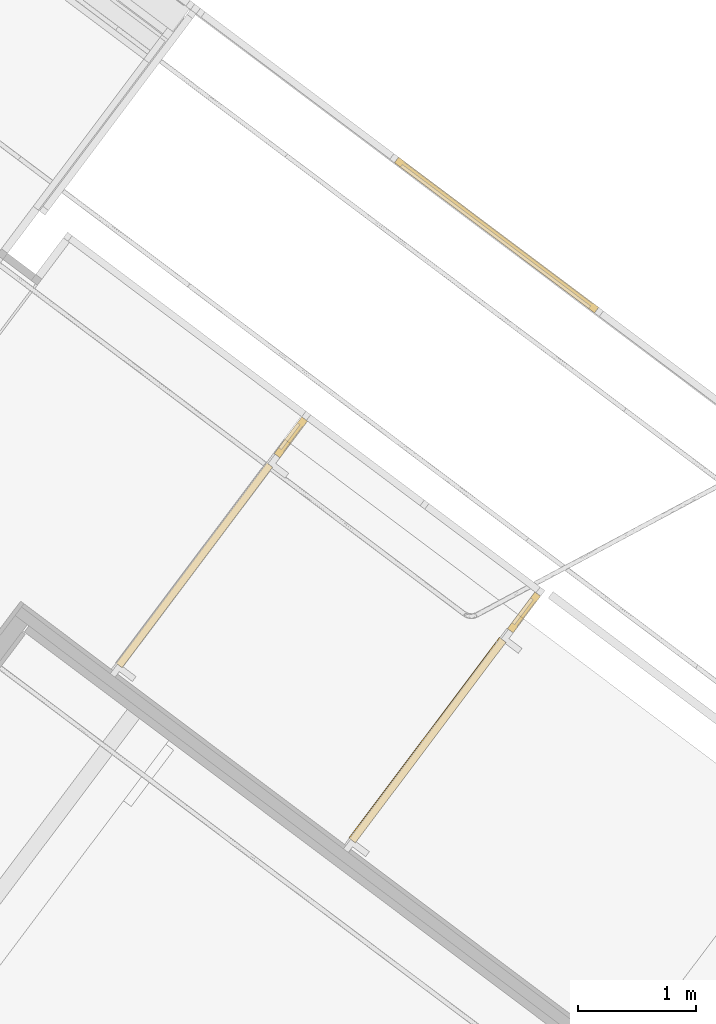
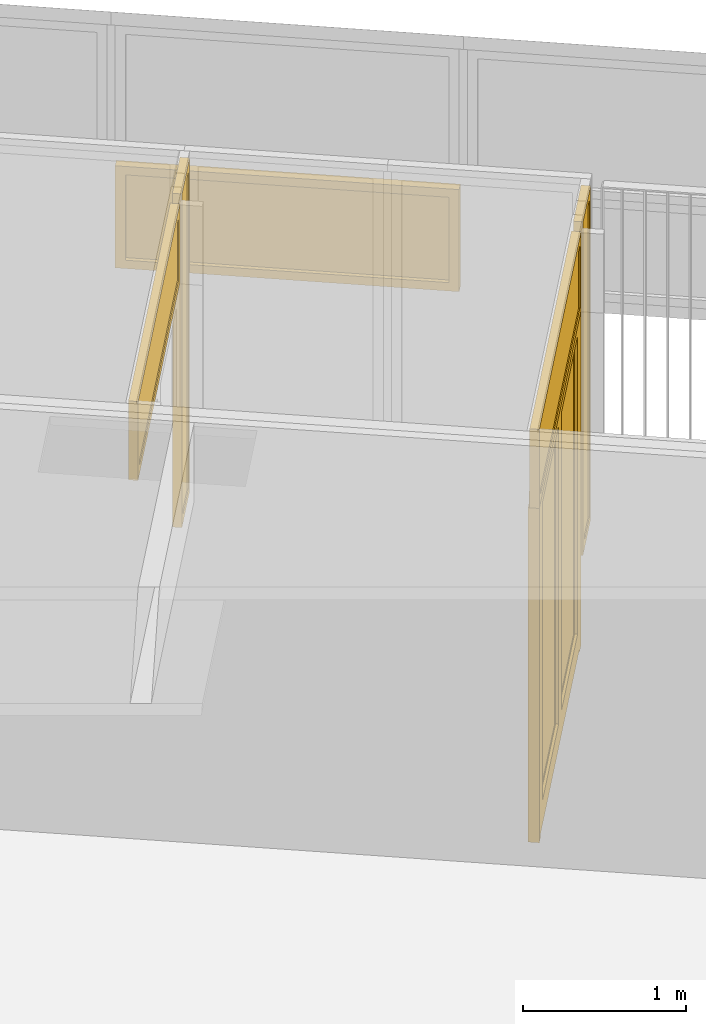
# One storey, part 211 of 243: 5 windows, 1 door, 5 elements without a shape of their own.
"""IFC2X3 building model written with IfcOpenShell, lengths in metres."""

from ifc_helpers import new_model, entity, si_unit, converted_unit, derived_unit, direction, frame, origin, place, context, subcontext, project, spatial, faceted_brep, source, transform, mapped, material, material_list, type_object, type_shapes, element, aggregate, save


model = new_model("IFC2X3")

# Units and contexts
model_context = context("Model", 3, precision=1e-05, world=origin(), true_north=direction((6.123031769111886e-17, 1.0)))
body_context = subcontext(model_context, "Body", "Model", "MODEL_VIEW")
ifc_project = project(units=[si_unit("LENGTHUNIT", "METRE"), si_unit("AREAUNIT", "SQUARE_METRE"), si_unit("VOLUMEUNIT", "CUBIC_METRE"), converted_unit("PLANEANGLEUNIT", "DEGREE", entity("IfcRatioMeasure", 0.017453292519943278), si_unit("PLANEANGLEUNIT", "RADIAN"), dimensions=[0, 0, 0, 0, 0, 0, 0]), si_unit("MASSUNIT", "GRAM", prefix="KILO"), derived_unit("MASSDENSITYUNIT", [(si_unit("MASSUNIT", "GRAM", prefix="KILO"), 1), (si_unit("LENGTHUNIT", "METRE"), -3)]), derived_unit("IONCONCENTRATIONUNIT", [(si_unit("MASSUNIT", "GRAM", prefix="KILO"), 1), (si_unit("LENGTHUNIT", "METRE"), -3)]), derived_unit("MOMENTOFINERTIAUNIT", [(si_unit("LENGTHUNIT", "METRE"), 4)]), si_unit("TIMEUNIT", "SECOND"), si_unit("FREQUENCYUNIT", "HERTZ"), si_unit("THERMODYNAMICTEMPERATUREUNIT", "DEGREE_CELSIUS"), derived_unit("THERMALTRANSMITTANCEUNIT", [(si_unit("MASSUNIT", "GRAM", prefix="KILO"), 1), (si_unit("THERMODYNAMICTEMPERATUREUNIT", "KELVIN"), -1), (si_unit("TIMEUNIT", "SECOND"), -3)]), derived_unit("THERMALCONDUCTANCEUNIT", [(si_unit("MASSUNIT", "GRAM", prefix="KILO"), 1), (si_unit("THERMODYNAMICTEMPERATUREUNIT", "KELVIN"), -1), (si_unit("TIMEUNIT", "SECOND"), -3), (si_unit("LENGTHUNIT", "METRE"), 1)]), derived_unit("VOLUMETRICFLOWRATEUNIT", [(si_unit("LENGTHUNIT", "METRE"), 3), (si_unit("TIMEUNIT", "SECOND"), -1)]), derived_unit("MASSFLOWRATEUNIT", [(si_unit("MASSUNIT", "GRAM", prefix="KILO"), 1), (si_unit("TIMEUNIT", "SECOND"), -1)]), derived_unit("ROTATIONALFREQUENCYUNIT", [(si_unit("TIMEUNIT", "SECOND"), -1)]), si_unit("ELECTRICCURRENTUNIT", "AMPERE"), si_unit("ELECTRICVOLTAGEUNIT", "VOLT"), si_unit("POWERUNIT", "WATT"), si_unit("FORCEUNIT", "NEWTON", prefix="KILO"), si_unit("ILLUMINANCEUNIT", "LUX"), si_unit("LUMINOUSFLUXUNIT", "LUMEN"), si_unit("LUMINOUSINTENSITYUNIT", "CANDELA"), derived_unit("USERDEFINED", [(si_unit("MASSUNIT", "GRAM", prefix="KILO"), -1), (si_unit("LENGTHUNIT", "METRE"), -2), (si_unit("TIMEUNIT", "SECOND"), 3), (si_unit("LUMINOUSFLUXUNIT", "LUMEN"), 1)]), derived_unit("USERDEFINED", [(si_unit("MASSUNIT", "GRAM", prefix="KILO"), 1), (si_unit("TIMEUNIT", "SECOND"), -3), (si_unit("LENGTHUNIT", "METRE"), 3), (si_unit("ELECTRICCURRENTUNIT", "AMPERE"), -2)]), derived_unit("SOUNDPOWERUNIT", [(si_unit("MASSUNIT", "GRAM", prefix="KILO"), 1), (si_unit("TIMEUNIT", "SECOND"), -3), (si_unit("LENGTHUNIT", "METRE"), 2)]), derived_unit("SOUNDPRESSUREUNIT", [(si_unit("MASSUNIT", "GRAM", prefix="KILO"), 1), (si_unit("LENGTHUNIT", "METRE"), -1), (si_unit("TIMEUNIT", "SECOND"), -2)]), derived_unit("LINEARVELOCITYUNIT", [(si_unit("LENGTHUNIT", "METRE"), 1), (si_unit("TIMEUNIT", "SECOND"), -1)]), si_unit("PRESSUREUNIT", "PASCAL"), derived_unit("USERDEFINED", [(si_unit("MASSUNIT", "GRAM", prefix="KILO"), 1), (si_unit("LENGTHUNIT", "METRE"), -2), (si_unit("TIMEUNIT", "SECOND"), -2)]), derived_unit("LINEARFORCEUNIT", [(si_unit("MASSUNIT", "GRAM", prefix="KILO"), 1), (si_unit("TIMEUNIT", "SECOND"), -2)]), derived_unit("PLANARFORCEUNIT", [(si_unit("MASSUNIT", "GRAM", prefix="KILO"), 1), (si_unit("LENGTHUNIT", "METRE"), -1), (si_unit("TIMEUNIT", "SECOND"), -2)]), derived_unit("SPECIFICHEATCAPACITYUNIT", [(si_unit("THERMODYNAMICTEMPERATUREUNIT", "KELVIN"), -1), (si_unit("LENGTHUNIT", "METRE"), 2), (si_unit("TIMEUNIT", "SECOND"), -2)]), derived_unit("HEATINGVALUEUNIT", [(si_unit("LENGTHUNIT", "METRE"), 2), (si_unit("TIMEUNIT", "SECOND"), -2)]), derived_unit("VAPORPERMEABILITYUNIT", [(si_unit("LENGTHUNIT", "METRE"), -1), (si_unit("TIMEUNIT", "SECOND"), 1)]), derived_unit("DYNAMICVISCOSITYUNIT", [(si_unit("MASSUNIT", "GRAM", prefix="KILO"), 1), (si_unit("TIMEUNIT", "SECOND"), -1), (si_unit("LENGTHUNIT", "METRE"), -1)]), derived_unit("THERMALEXPANSIONCOEFFICIENTUNIT", [(si_unit("THERMODYNAMICTEMPERATUREUNIT", "KELVIN"), -1)]), derived_unit("MODULUSOFELASTICITYUNIT", [(si_unit("MASSUNIT", "GRAM", prefix="KILO"), 1), (si_unit("LENGTHUNIT", "METRE"), -1), (si_unit("TIMEUNIT", "SECOND"), -2)]), derived_unit("ISOTHERMALMOISTURECAPACITYUNIT", [(si_unit("LENGTHUNIT", "METRE"), 3), (si_unit("MASSUNIT", "GRAM", prefix="KILO"), -1)]), derived_unit("MOISTUREDIFFUSIVITYUNIT", [(si_unit("TIMEUNIT", "SECOND"), -1), (si_unit("LENGTHUNIT", "METRE"), 2)])], contexts=[model_context])

# Site, building, storey
site_placement = place(None, frame((0.0, 0.0, 235.0), z_axis=(0.0, 0.0, 1.0), x_axis=(-0.7996477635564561, 0.6004693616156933, 0.0)))
site = spatial("IfcSite", under=ifc_project, at=site_placement, Name="Default", CompositionType="ELEMENT")
building_placement = place(site_placement, origin())
building = spatial("IfcBuilding", under=site, at=building_placement, CompositionType="ELEMENT")
storey_placement = place(building_placement, origin())
storey = spatial("IfcBuildingStorey", under=building, at=storey_placement, Name="P0- Escola", CompositionType="ELEMENT", Elevation=0.0)

# Curtain wall, window
curtain_wall_type_1 = type_object("IfcCurtainWallType", PredefinedType="NOTDEFINED")
curtain_wall_1_placement = place(storey_placement, origin())
curtain_wall_1 = element("IfcCurtainWall", 1, at=curtain_wall_1_placement, inside=storey, type_object=curtain_wall_type_1)
ifc_material_1 = material(Name="_Vidre")
ifc_material_2 = material(Name="_Alumini- T1- Perfil")
ifc_material_list_1 = material_list([ifc_material_1, ifc_material_2])
window_style_1 = type_object("IfcWindowStyle", Name="MC- Alu- Conjunt vidre fix- 62x60 cm:MC- Alu- Conjunt vidre fix- 62x60 cm", ConstructionType="NOTDEFINED", OperationType="NOTDEFINED", ParameterTakesPrecedence=False, Sizeable=False, material=ifc_material_list_1)
shared_shape_1 = source(origin(), body_context, "Body", "Brep", [
    faceted_brep([(0.14619328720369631, -0.007600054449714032, 0.048806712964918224), (0.14619328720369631, -0.03160022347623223, 0.048806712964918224), (-0.14619328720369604, -0.03160022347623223, 0.048806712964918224), (-0.14619328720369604, -0.007600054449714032, 0.048806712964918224), (0.14619328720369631, -0.007600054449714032, 2.4510000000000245), (-0.14619328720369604, -0.007600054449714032, 2.4510000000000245), (-0.14619328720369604, -0.03160022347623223, 2.4510000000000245), (0.14619328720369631, -0.03160022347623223, 2.4510000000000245)], [[[0, 1, 2, 3]], [[4, 0, 3, 5]], [[5, 3, 2, 6]], [[6, 2, 1, 7]], [[7, 1, 0, 4]], [[4, 5, 6, 7]]]),
    faceted_brep([(0.19500000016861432, -0.05999999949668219, 2.500000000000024), (0.1950000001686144, -0.05999999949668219, 0.0), (0.1950000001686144, 0.0, 0.0), (0.1950000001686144, 0.0, 2.500000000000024), (-0.1950000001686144, 0.0, 2.500000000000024), (-0.1950000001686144, 0.0, 0.0), (0.13219318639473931, 0.0, 2.437193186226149), (-0.13219318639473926, 0.0, 2.437193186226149), (-0.13219318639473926, 0.0, 0.06280681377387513), (0.1321931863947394, 0.0, 0.06280681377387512), (-0.1950000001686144, -0.05999999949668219, 0.0), (-0.19500000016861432, -0.05999999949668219, 2.500000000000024), (-0.13219603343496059, -0.05999999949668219, 2.4371960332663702), (0.13219603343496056, -0.05999999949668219, 2.4371960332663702), (0.13219603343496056, -0.05999999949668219, 0.06280396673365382), (-0.13219603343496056, -0.05999999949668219, 0.06280396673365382), (0.13219603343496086, -0.03160022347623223, 2.4371960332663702), (0.13219603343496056, -0.03160022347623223, 0.06280396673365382), (-0.13219603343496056, -0.03160022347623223, 0.06280396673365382), (-0.13219603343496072, -0.03160022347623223, 2.4371960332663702), (-0.14619328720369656, -0.03160022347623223, 2.4511932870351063), (0.1461932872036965, -0.03160022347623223, 2.4511932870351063), (0.1461932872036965, -0.03160022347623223, 0.04880671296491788), (-0.1461932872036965, -0.03160022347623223, 0.04880671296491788), (0.14619328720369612, -0.007600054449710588, 2.4511932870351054), (0.1461932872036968, -0.007600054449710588, 0.04880671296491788), (-0.1461932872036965, -0.007600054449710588, 0.04880671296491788), (-0.14619328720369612, -0.007600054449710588, 2.4511932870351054), (-0.13219318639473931, -0.007600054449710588, 2.437193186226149), (0.13219318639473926, -0.007600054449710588, 2.437193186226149), (0.13219318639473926, -0.007600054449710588, 0.06280681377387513), (-0.13219318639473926, -0.007600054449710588, 0.06280681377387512)], [[[0, 1, 2, 3]], [[4, 3, 2, 5], [6, 7, 8, 9]], [[1, 10, 5, 2]], [[0, 11, 10, 1], [12, 13, 14, 15]], [[16, 17, 14, 13]], [[17, 18, 15, 14]], [[16, 19, 18, 17], [20, 21, 22, 23]], [[24, 25, 22, 21]], [[25, 26, 23, 22]], [[24, 27, 26, 25], [28, 29, 30, 31]], [[6, 9, 30, 29]], [[9, 8, 31, 30]], [[10, 11, 4, 5]], [[18, 19, 12, 15]], [[26, 27, 20, 23]], [[8, 7, 28, 31]], [[11, 0, 3, 4]], [[19, 16, 13, 12]], [[27, 24, 21, 20]], [[7, 6, 29, 28]]], outer=[[True], [True, False], [True], [True, False], [True], [True], [False, True], [True], [True], [True, False], [True], [True], [True], [True], [True], [True], [True], [True], [True], [True]]),
])
type_shapes(window_style_1, [shared_shape_1])
window_1_placement = place(curtain_wall_1_placement, frame((33.750147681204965, -39.885191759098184, 0.6), z_axis=(0.0, 0.0, 1.0), x_axis=(0.0, 1.0, 0.0)))
window_1 = element("IfcWindow", 2, at=window_1_placement, type_object=window_style_1, material=ifc_material_list_1, Name="MC- Alu- Conjunt vidre fix- 62x60 cm:MC- Alu- Conjunt vidre fix- 62x60 cm", ObjectType="MC- Alu- Conjunt vidre fix- 62x60 cm:MC- Alu- Conjunt vidre fix- 62x60 cm", OverallHeight=2.500000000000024, OverallWidth=0.3900000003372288, context=body_context, shape_type="MappedRepresentation", body=[
    mapped(shared_shape_1, transform((0.0, 0.0, 0.0), scale=1.0)),
])
aggregate(curtain_wall_1, [window_1])

curtain_wall_2_placement = place(storey_placement, origin())
curtain_wall_2 = element("IfcCurtainWall", 3, at=curtain_wall_2_placement, inside=storey, type_object=curtain_wall_type_1)
window_2_placement = place(curtain_wall_2_placement, frame((31.271147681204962, -39.885191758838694, 0.6), z_axis=(0.0, 0.0, 1.0), x_axis=(0.0, 1.0, 0.0)))
window_2 = element("IfcWindow", 4, at=window_2_placement, type_object=window_style_1, material=ifc_material_list_1, Name="MC- Alu- Conjunt vidre fix- 62x60 cm:MC- Alu- Conjunt vidre fix- 62x60 cm", ObjectType="MC- Alu- Conjunt vidre fix- 62x60 cm:MC- Alu- Conjunt vidre fix- 62x60 cm", OverallHeight=2.500000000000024, OverallWidth=0.3900000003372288, context=body_context, shape_type="MappedRepresentation", body=[
    mapped(shared_shape_1, transform((0.0, 0.0, 0.0), scale=1.0)),
])
aggregate(curtain_wall_2, [window_2])

# Curtain wall, door, window
curtain_wall_type_2 = type_object("IfcCurtainWallType", PredefinedType="NOTDEFINED")
curtain_wall_3_placement = place(storey_placement, origin())
curtain_wall_3 = element("IfcCurtainWall", 5, at=curtain_wall_3_placement, inside=storey, type_object=curtain_wall_type_2)
ifc_material_list_2 = material_list([ifc_material_2, ifc_material_1])
door_style = type_object("IfcDoorStyle", Name="MC- Alu- Conjunt doble porta- 70x60 cm- +15cm- obertura int:MC- Alu- Conjunt doble porta- 70x60 cm- +15cm- obertura int", ConstructionType="NOTDEFINED", OperationType="NOTDEFINED", ParameterTakesPrecedence=False, Sizeable=False, material=ifc_material_list_2)
shared_shape_2 = source(origin(), body_context, "Body", "Brep", [
    faceted_brep([(-0.9924499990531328, 0.0, 0.02400000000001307), (0.0, 0.0, 0.02400000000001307), (0.0, -0.0656997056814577, 0.02400000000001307), (-0.9924499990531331, -0.06569970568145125, 0.02400000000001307), (-0.992449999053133, -0.06569970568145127, 2.560300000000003), (-0.9924499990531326, 0.0, 2.560300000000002), (0.0, -0.06569970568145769, 2.560300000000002), (0.0, -0.06569970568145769, 0.0), (-1.0164499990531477, -0.06569970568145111, 0.0), (-1.0164499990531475, -0.0656997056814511, 2.5843000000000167), (0.0, -0.06569970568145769, 2.5843000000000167), (0.0, -0.06999970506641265, 2.5843000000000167), (0.0, -0.06999970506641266, 0.0), (0.0, 0.0, 2.560300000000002), (-0.8908499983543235, 0.0, 2.458699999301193), (-0.8908499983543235, 0.0, 0.2036000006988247), (-0.07659999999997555, 0.0, 0.20360000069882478), (-0.07659999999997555, 0.0, 2.458699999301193), (-0.0765999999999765, -0.06449970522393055, 2.458699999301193), (-0.0765999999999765, -0.06449970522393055, 0.20360000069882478), (-0.07659999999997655, -0.06999970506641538, 0.20360000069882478), (-0.07659999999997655, -0.06999970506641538, 2.458699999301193), (-0.8908499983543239, -0.06999970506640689, 0.20360000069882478), (-0.8908499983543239, -0.06999970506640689, 2.458699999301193), (-1.016449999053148, -0.06999970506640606, 2.584300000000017), (-1.016449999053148, -0.06999970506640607, 0.0), (-0.8908499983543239, -0.06449970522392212, 0.2036000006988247), (-0.8908499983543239, -0.06449970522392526, 2.458699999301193), (-0.05159999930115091, -0.0644997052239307, 2.483700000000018), (-0.05159999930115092, -0.0644997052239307, 0.17859999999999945), (-0.9158499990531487, -0.06449970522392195, 0.17859999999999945), (-0.9158499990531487, -0.0644997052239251, 2.483700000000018), (-0.9158499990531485, -0.018999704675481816, 0.17859999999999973), (-0.9158499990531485, -0.018999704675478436, 2.483700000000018), (-0.051599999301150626, -0.018999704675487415, 0.17859999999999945), (-0.05159999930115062, -0.018999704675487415, 2.483700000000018), (-0.07659999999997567, -0.018999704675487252, 2.458699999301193), (-0.07659999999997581, -0.018999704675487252, 0.20360000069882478), (-0.8908499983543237, -0.0189997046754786, 0.20360000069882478), (-0.8908499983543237, -0.0189997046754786, 2.458699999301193)], [[[0, 1, 2, 3]], [[4, 5, 0, 3]], [[6, 4, 3, 2, 7, 8, 9, 10]], [[10, 11, 12, 7, 2, 1, 13, 6]], [[13, 1, 0, 5], [14, 15, 16, 17]], [[18, 19, 20, 21]], [[21, 20, 22, 23], [24, 25, 12, 11]], [[26, 22, 20, 19]], [[27, 26, 19, 18], [28, 29, 30, 31]], [[23, 22, 26, 27]], [[31, 30, 32, 33]], [[34, 32, 30, 29]], [[35, 34, 29, 28]], [[33, 32, 34, 35], [36, 37, 38, 39]], [[39, 38, 15, 14]], [[15, 38, 37, 16]], [[17, 16, 37, 36]], [[8, 7, 12, 25]], [[9, 8, 25, 24]], [[4, 6, 13, 5]], [[10, 9, 24, 11]], [[27, 18, 21, 23]], [[33, 35, 28, 31]], [[14, 17, 36, 39]]], outer=[[True], [True], [True], [True], [True, False], [True], [False, True], [True], [False, True], [True], [True], [True], [True], [True, False], [True], [True], [True], [True], [True], [True], [True], [True], [True], [True]]),
    faceted_brep([(0.9924499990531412, -0.06569970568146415, 0.024000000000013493), (0.0, -0.0656997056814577, 0.024000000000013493), (0.0, 0.0, 0.024000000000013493), (0.9924499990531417, 0.0, 0.024000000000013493), (1.0164499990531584, -0.0656997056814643, 0.0), (0.0, -0.0656997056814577, 0.0), (0.9924499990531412, -0.06569970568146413, 2.5603000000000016), (0.0, -0.0656997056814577, 2.5603000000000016), (0.0, -0.0656997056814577, 2.5843000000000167), (1.0164499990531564, -0.0656997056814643, 2.5843000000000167), (0.9924499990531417, 0.0, 2.5603000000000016), (0.0, 0.0, 2.5603000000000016), (0.07659999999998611, 0.0, 2.458699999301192), (0.07659999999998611, 0.0, 0.20360000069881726), (0.8908499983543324, 0.0, 0.2036000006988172), (0.8908499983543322, 0.0, 2.458699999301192), (0.0, -0.06999970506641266, 0.0), (0.0, -0.06999970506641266, 2.5843000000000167), (0.8908499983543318, -0.06999970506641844, 2.458699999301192), (0.890849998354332, -0.06999970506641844, 0.20360000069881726), (0.07659999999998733, -0.06999970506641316, 0.2036000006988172), (0.07659999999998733, -0.06999970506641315, 2.458699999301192), (1.0164499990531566, -0.06999970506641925, 0.0), (1.0164499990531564, -0.06999970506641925, 2.5843000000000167), (0.8908499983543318, -0.06449970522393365, 2.458699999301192), (0.890849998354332, -0.06449970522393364, 0.20360000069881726), (0.0765999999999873, -0.0644997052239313, 0.2036000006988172), (0.9158499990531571, -0.06449970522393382, 2.4837000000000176), (0.9158499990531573, -0.0644997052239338, 0.17859999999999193), (0.05159999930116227, -0.06449970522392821, 0.17859999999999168), (0.05159999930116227, -0.06449970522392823, 2.483700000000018), (0.0765999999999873, -0.06449970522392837, 2.458699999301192), (0.9158499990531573, -0.01899970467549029, 2.4837000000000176), (0.9158499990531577, -0.01899970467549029, 0.17859999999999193), (0.890849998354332, -0.018999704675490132, 2.458699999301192), (0.8908499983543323, -0.018999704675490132, 0.20360000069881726), (0.07659999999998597, -0.018999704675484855, 0.20360000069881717), (0.07659999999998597, -0.018999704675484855, 2.458699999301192), (0.05159999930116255, -0.01899970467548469, 2.483700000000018), (0.05159999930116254, -0.01899970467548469, 0.17859999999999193)], [[[0, 1, 2, 3]], [[4, 5, 1, 0, 6, 7, 8, 9]], [[3, 10, 6, 0]], [[10, 3, 2, 11], [12, 13, 14, 15]], [[8, 7, 11, 2, 1, 5, 16, 17]], [[18, 19, 20, 21], [16, 22, 23, 17]], [[23, 22, 4, 9]], [[24, 25, 19, 18]], [[19, 25, 26, 20]], [[27, 28, 29, 30], [31, 26, 25, 24]], [[32, 33, 28, 27]], [[34, 35, 36, 37], [38, 39, 33, 32]], [[33, 39, 29, 28]], [[15, 14, 35, 34]], [[35, 14, 13, 36]], [[21, 20, 26, 31]], [[30, 29, 39, 38]], [[37, 36, 13, 12]], [[9, 8, 17, 23]], [[18, 21, 31, 24]], [[27, 30, 38, 32]], [[34, 37, 12, 15]], [[10, 11, 7, 6]], [[5, 4, 22, 16]]], outer=[[True], [True], [True], [True, False], [True], [False, True], [True], [True], [True], [True, False], [True], [False, True], [True], [True], [True], [True], [True], [True], [True], [True], [True], [True], [True], [True]]),
    faceted_brep([(0.0515999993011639, -0.06089980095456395, 0.17859999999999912), (0.051599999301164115, -0.02889980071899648, 0.17859999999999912), (0.9158499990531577, -0.02889980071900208, 0.17859999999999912), (0.9158499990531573, -0.06089980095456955, 0.17859999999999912), (0.0515999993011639, -0.06089980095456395, 2.5087000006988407), (0.9158499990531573, -0.06089980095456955, 2.5087000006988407), (0.9158499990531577, -0.02889980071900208, 2.5087000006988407), (0.051599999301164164, -0.02889980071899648, 2.5087000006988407)], [[[0, 1, 2, 3]], [[4, 0, 3, 5]], [[5, 3, 2, 6]], [[6, 2, 1, 7]], [[7, 1, 0, 4]], [[4, 5, 6, 7]]]),
    faceted_brep([(-0.05159999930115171, -0.06089980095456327, 0.17859999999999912), (-0.9158499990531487, -0.06089980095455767, 0.17859999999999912), (-0.9158499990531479, -0.028899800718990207, 0.17859999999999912), (-0.05159999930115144, -0.028899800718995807, 0.17859999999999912), (-0.0515999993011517, -0.06089980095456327, 2.5087000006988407), (-0.05159999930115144, -0.028899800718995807, 2.5087000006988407), (-0.9158499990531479, -0.028899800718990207, 2.5087000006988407), (-0.9158499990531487, -0.06089980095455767, 2.5087000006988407)], [[[0, 1, 2, 3]], [[4, 0, 3, 5]], [[5, 3, 2, 6]], [[6, 2, 1, 7]], [[7, 1, 0, 4]], [[4, 5, 6, 7]]]),
    faceted_brep([(1.0657499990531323, -0.06999999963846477, 0.0), (1.0244499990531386, -0.0699999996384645, 0.0), (1.0244499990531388, -0.059699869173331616, 0.0), (1.0139499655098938, -0.059699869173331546, 0.0), (1.013949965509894, -0.008800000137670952, 0.0), (0.9984499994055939, -0.00880000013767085, 0.0), (0.998449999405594, 0.0, 0.0), (1.0657499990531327, 0.0, 0.0), (1.0657499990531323, -0.06999999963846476, 2.5050000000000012), (-1.065749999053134, -0.06999999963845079, 2.5050000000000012), (-1.0657499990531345, -0.06999999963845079, 0.0), (-1.0244499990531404, -0.0699999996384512, 0.0), (-1.0244499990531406, -0.06999999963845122, 2.4637000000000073), (1.0244499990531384, -0.06999999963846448, 2.4637000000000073), (1.024449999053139, -0.05969986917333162, 2.4637000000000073), (-1.0244499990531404, -0.05969986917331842, 2.4637000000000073), (-1.0244499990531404, -0.05969986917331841, 0.0), (-1.0139499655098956, -0.05969986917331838, 0.0), (-1.0139499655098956, -0.05969986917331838, 2.4531999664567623), (1.0139499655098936, -0.05969986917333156, 2.4531999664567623), (1.0139499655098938, -0.008800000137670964, 2.4531999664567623), (-1.0139499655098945, -0.008800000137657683, 2.4531999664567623), (-1.013949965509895, -0.008800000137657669, 0.0), (-0.9984499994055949, -0.008800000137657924, 0.0), (-0.9984499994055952, -0.008800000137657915, 2.4377000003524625), (0.9984499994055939, -0.008800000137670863, 2.4377000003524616), (0.9984499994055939, 0.0, 2.4377000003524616), (-0.9984499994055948, 0.0, 2.437700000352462), (-0.9984499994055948, 0.0, 0.0), (-1.0657499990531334, 0.0, 0.0), (-1.0657499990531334, 0.0, 2.505000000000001), (1.0657499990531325, 0.0, 2.5050000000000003)], [[[0, 1, 2, 3, 4, 5, 6, 7]], [[1, 0, 8, 9, 10, 11, 12, 13]], [[2, 1, 13, 14]], [[3, 2, 14, 15, 16, 17, 18, 19]], [[4, 3, 19, 20]], [[5, 4, 20, 21, 22, 23, 24, 25]], [[6, 5, 25, 26]], [[7, 6, 26, 27, 28, 29, 30, 31]], [[0, 7, 31, 8]], [[10, 29, 28, 23, 22, 17, 16, 11]], [[9, 30, 29, 10]], [[27, 24, 23, 28]], [[21, 18, 17, 22]], [[15, 12, 11, 16]], [[8, 31, 30, 9]], [[26, 25, 24, 27]], [[20, 19, 18, 21]], [[14, 13, 12, 15]]]),
])
type_shapes(door_style, [shared_shape_2])
door_placement = place(curtain_wall_3_placement, frame((31.271147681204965, -38.52319175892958, 0.0), z_axis=(0.0, 0.0, 1.0), x_axis=(0.0, 1.0, 0.0)))
door = element("IfcDoor", 6, at=door_placement, type_object=door_style, material=ifc_material_list_2, Name="MC- Alu- Conjunt doble porta- 70x60 cm- +15cm- obertura int:MC- Alu- Conjunt doble porta- 70x60 cm- +15cm- obertura int", ObjectType="MC- Alu- Conjunt doble porta- 70x60 cm- +15cm- obertura int:MC- Alu- Conjunt doble porta- 70x60 cm- +15cm- obertura int", OverallHeight=2.58430000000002, OverallWidth=2.1314999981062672, context=body_context, shape_type="MappedRepresentation", body=[
    mapped(shared_shape_2, transform((0.0, 0.0, 0.0), scale=1.0)),
])
window_style_2 = type_object("IfcWindowStyle", Name="MC- Alu- Conjunt vidre fix- 62x60 cm:MC- Alu- Conjunt vidre fix- 62x60 cm", ConstructionType="NOTDEFINED", OperationType="NOTDEFINED", ParameterTakesPrecedence=False, Sizeable=False, material=ifc_material_list_1)
shared_shape_3 = source(origin(), body_context, "Body", "Brep", [
    faceted_brep([(-1.0169432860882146, -0.007600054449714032, 0.048806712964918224), (1.0169432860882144, -0.007600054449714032, 0.048806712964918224), (1.0169432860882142, -0.03160022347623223, 0.048806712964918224), (-1.0169432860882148, -0.03160022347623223, 0.048806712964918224), (-1.0169432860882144, -0.007600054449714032, 0.543000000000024), (1.0169432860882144, -0.007600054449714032, 0.543000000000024), (1.0169432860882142, -0.03160022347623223, 0.543000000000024), (-1.0169432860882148, -0.03160022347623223, 0.543000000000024)], [[[0, 1, 2, 3]], [[4, 5, 1, 0]], [[5, 6, 2, 1]], [[6, 7, 3, 2]], [[7, 4, 0, 3]], [[4, 7, 6, 5]]]),
    faceted_brep([(-1.0657499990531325, -0.05999999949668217, 0.5920000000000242), (-1.0657499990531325, 0.0, 0.5920000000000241), (-1.0657499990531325, 0.0, 0.0), (-1.0657499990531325, -0.05999999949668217, 0.0), (-1.0029431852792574, 0.0, 0.529193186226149), (-1.0029431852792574, 0.0, 0.06280681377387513), (1.0029431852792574, 0.0, 0.06280681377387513), (1.0029431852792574, 0.0, 0.529193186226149), (1.0657499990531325, 0.0, 0.5920000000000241), (1.0657499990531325, 0.0, 0.0), (1.0657499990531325, -0.05999999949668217, 0.0), (1.0657499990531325, -0.05999999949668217, 0.5920000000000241), (1.0029460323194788, -0.05999999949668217, 0.5291960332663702), (1.0029460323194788, -0.05999999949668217, 0.06280396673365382), (-1.0029460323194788, -0.05999999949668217, 0.06280396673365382), (-1.0029460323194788, -0.05999999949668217, 0.5291960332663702), (-1.0029460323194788, -0.03160022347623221, 0.5291960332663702), (-1.0029460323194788, -0.03160022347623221, 0.06280396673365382), (1.0029460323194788, -0.03160022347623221, 0.06280396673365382), (1.0029460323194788, -0.03160022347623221, 0.5291960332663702), (1.0169432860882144, -0.03160022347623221, 0.5431932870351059), (1.0169432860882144, -0.03160022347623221, 0.048806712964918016), (-1.0169432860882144, -0.03160022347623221, 0.04880671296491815), (-1.0169432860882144, -0.03160022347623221, 0.543193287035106), (-1.0169432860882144, -0.007600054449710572, 0.543193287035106), (-1.0169432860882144, -0.007600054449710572, 0.04880671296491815), (1.0169432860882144, -0.007600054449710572, 0.048806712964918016), (1.0169432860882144, -0.007600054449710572, 0.5431932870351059), (1.0029431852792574, -0.007600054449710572, 0.529193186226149), (1.0029431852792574, -0.007600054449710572, 0.062806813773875), (-1.0029431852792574, -0.007600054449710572, 0.06280681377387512), (-1.0029431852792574, -0.007600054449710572, 0.5291931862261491)], [[[0, 1, 2, 3]], [[4, 5, 6, 7], [8, 9, 2, 1]], [[3, 2, 9, 10]], [[0, 3, 10, 11], [12, 13, 14, 15]], [[16, 15, 14, 17]], [[17, 14, 13, 18]], [[16, 17, 18, 19], [20, 21, 22, 23]], [[24, 23, 22, 25]], [[25, 22, 21, 26]], [[24, 25, 26, 27], [28, 29, 30, 31]], [[4, 31, 30, 5]], [[5, 30, 29, 6]], [[10, 9, 8, 11]], [[18, 13, 12, 19]], [[26, 21, 20, 27]], [[6, 29, 28, 7]], [[11, 8, 1, 0]], [[19, 12, 15, 16]], [[27, 20, 23, 24]], [[7, 28, 31, 4]]], outer=[[True], [False, True], [True], [True, False], [True], [True], [False, True], [True], [True], [True, False], [True], [True], [True], [True], [True], [True], [True], [True], [True], [True]]),
])
type_shapes(window_style_2, [shared_shape_3])
window_3_placement = place(curtain_wall_3_placement, frame((31.271147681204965, -38.52319175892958, 2.5050000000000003), z_axis=(0.0, 0.0, 1.0), x_axis=(0.0, 1.0, 0.0)))
window_3 = element("IfcWindow", 7, at=window_3_placement, type_object=window_style_2, material=ifc_material_list_1, Name="MC- Alu- Conjunt vidre fix- 62x60 cm:MC- Alu- Conjunt vidre fix- 62x60 cm", ObjectType="MC- Alu- Conjunt vidre fix- 62x60 cm:MC- Alu- Conjunt vidre fix- 62x60 cm", OverallHeight=0.5920000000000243, OverallWidth=2.131499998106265, context=body_context, shape_type="MappedRepresentation", body=[
    mapped(shared_shape_3, transform((0.0, 0.0, 0.0), scale=1.0)),
])
aggregate(curtain_wall_3, [door, window_3])

# Curtain wall, window
curtain_wall_4_placement = place(storey_placement, origin())
curtain_wall_4 = element("IfcCurtainWall", 8, at=curtain_wall_4_placement, inside=storey, type_object=curtain_wall_type_2)
window_4_placement = place(curtain_wall_4_placement, frame((33.75114768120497, -38.523191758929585, 2.5050000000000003), z_axis=(0.0, 0.0, 1.0), x_axis=(0.0, 1.0, 0.0)))
window_4 = element("IfcWindow", 9, at=window_4_placement, type_object=window_style_2, material=ifc_material_list_1, Name="MC- Alu- Conjunt vidre fix- 62x60 cm:MC- Alu- Conjunt vidre fix- 62x60 cm", ObjectType="MC- Alu- Conjunt vidre fix- 62x60 cm:MC- Alu- Conjunt vidre fix- 62x60 cm", OverallHeight=0.5920000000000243, OverallWidth=2.131499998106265, context=body_context, shape_type="MappedRepresentation", body=[
    mapped(shared_shape_3, transform((0.0, 0.0, 0.0), scale=1.0)),
])
aggregate(curtain_wall_4, [window_4])

curtain_wall_type_3 = type_object("IfcCurtainWallType", Name="Muro cortina:MC- EXT- MC9", PredefinedType="NOTDEFINED")
curtain_wall_5_placement = place(storey_placement, origin())
curtain_wall_5 = element("IfcCurtainWall", 10, at=curtain_wall_5_placement, inside=storey, type_object=curtain_wall_type_3, Name="Muro cortina:MC- EXT- MC9", ObjectType="Muro cortina:MC- EXT- MC9")
window_style_3 = type_object("IfcWindowStyle", Name="MC- Alu- Conjunt vidre fix- 62x60 cm:MC- Alu- Conjunt vidre fix- 62x60 cm", ConstructionType="NOTDEFINED", OperationType="NOTDEFINED", ParameterTakesPrecedence=False, Sizeable=False, material=ifc_material_list_1)
shared_shape_4 = source(origin(), body_context, "Body", "Brep", [
    faceted_brep([(1.0146932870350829, -0.007600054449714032, 0.048806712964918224), (1.0146932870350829, -0.03160022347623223, 0.048806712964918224), (-1.0146932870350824, -0.03160022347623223, 0.048806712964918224), (-1.0146932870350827, -0.007600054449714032, 0.048806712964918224), (1.0146932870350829, -0.007600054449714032, 0.7160000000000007), (-1.0146932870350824, -0.007600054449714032, 0.7160000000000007), (-1.0146932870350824, -0.03160022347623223, 0.7160000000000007), (1.0146932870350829, -0.03160022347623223, 0.7160000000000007)], [[[0, 1, 2, 3]], [[4, 0, 3, 5]], [[5, 3, 2, 6]], [[6, 2, 1, 7]], [[7, 1, 0, 4]], [[4, 5, 6, 7]]]),
    faceted_brep([(1.0635000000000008, -0.05999999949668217, 0.7650000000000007), (1.0635000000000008, -0.05999999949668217, 0.0), (1.0635000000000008, 0.0, 0.0), (1.0635000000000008, 0.0, 0.765000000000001), (-1.0635000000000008, 0.0, 0.7650000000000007), (-1.0635000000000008, 0.0, 0.0), (1.0006931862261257, 0.0, 0.7021931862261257), (-1.0006931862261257, 0.0, 0.7021931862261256), (-1.0006931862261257, 0.0, 0.06280681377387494), (1.0006931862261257, 0.0, 0.06280681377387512), (-1.0635000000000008, -0.05999999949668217, 0.0), (-1.0635000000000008, -0.05999999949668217, 0.7650000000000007), (-1.000696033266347, -0.05999999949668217, 0.7021960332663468), (1.000696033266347, -0.05999999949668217, 0.7021960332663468), (1.000696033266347, -0.05999999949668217, 0.06280396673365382), (-1.000696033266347, -0.05999999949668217, 0.06280396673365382), (1.000696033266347, -0.03160022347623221, 0.7021960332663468), (1.000696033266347, -0.03160022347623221, 0.06280396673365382), (-1.000696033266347, -0.03160022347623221, 0.06280396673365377), (-1.000696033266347, -0.03160022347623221, 0.7021960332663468), (-1.0146932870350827, -0.03160022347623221, 0.7161932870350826), (1.0146932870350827, -0.03160022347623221, 0.7161932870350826), (1.0146932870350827, -0.03160022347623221, 0.048806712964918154), (-1.0146932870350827, -0.03160022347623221, 0.04880671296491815), (1.0146932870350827, -0.007600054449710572, 0.7161932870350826), (1.0146932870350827, -0.007600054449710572, 0.04880671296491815), (-1.0146932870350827, -0.007600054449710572, 0.048806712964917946), (-1.0146932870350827, -0.007600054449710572, 0.7161932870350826), (-1.0006931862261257, -0.007600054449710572, 0.7021931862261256), (1.0006931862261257, -0.007600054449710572, 0.7021931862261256), (1.0006931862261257, -0.007600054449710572, 0.06280681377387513), (-1.0006931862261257, -0.007600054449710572, 0.06280681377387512)], [[[0, 1, 2, 3]], [[4, 3, 2, 5], [6, 7, 8, 9]], [[1, 10, 5, 2]], [[0, 11, 10, 1], [12, 13, 14, 15]], [[16, 17, 14, 13]], [[17, 18, 15, 14]], [[16, 19, 18, 17], [20, 21, 22, 23]], [[24, 25, 22, 21]], [[25, 26, 23, 22]], [[24, 27, 26, 25], [28, 29, 30, 31]], [[6, 9, 30, 29]], [[9, 8, 31, 30]], [[10, 11, 4, 5]], [[18, 19, 12, 15]], [[26, 27, 20, 23]], [[8, 7, 28, 31]], [[11, 0, 3, 4]], [[19, 16, 13, 12]], [[27, 24, 21, 20]], [[7, 6, 29, 28]]], outer=[[True], [True, False], [True], [True, False], [True], [True], [False, True], [True], [True], [True, False], [True], [True], [True], [True], [True], [True], [True], [True], [True], [True]]),
])
type_shapes(window_style_3, [shared_shape_4])
window_5_placement = place(curtain_wall_5_placement, frame((33.41364360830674, -42.34019175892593, 0.685), z_axis=(0.0, 0.0, 1.0), x_axis=(-1.0, 0.0, 0.0)))
window_5 = element("IfcWindow", 11, at=window_5_placement, type_object=window_style_3, material=ifc_material_list_1, Name="MC- Alu- Conjunt vidre fix- 62x60 cm:MC- Alu- Conjunt vidre fix- 62x60 cm", ObjectType="MC- Alu- Conjunt vidre fix- 62x60 cm:MC- Alu- Conjunt vidre fix- 62x60 cm", OverallHeight=0.7650000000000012, OverallWidth=2.127000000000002, context=body_context, shape_type="MappedRepresentation", body=[
    mapped(shared_shape_4, transform((0.0, 0.0, 0.0), scale=1.0)),
])
aggregate(curtain_wall_5, [window_5])

save(model, "model.ifc")
